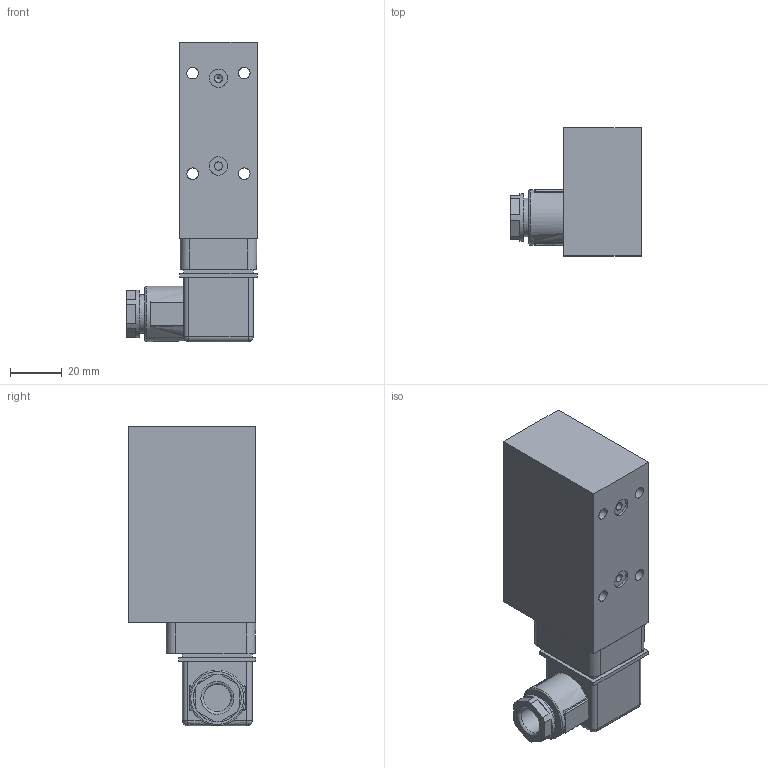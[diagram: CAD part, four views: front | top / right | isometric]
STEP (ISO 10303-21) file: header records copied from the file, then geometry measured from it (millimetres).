
FILE_DESCRIPTION((''),'2;1');
FILE_NAME('U:\Users\a.heinl\DG023.stp','2013-05-14T15:05:20',('User'), ('SDRC'),'I-DEAS Master Series 9','UNIX','Yes');
FILE_SCHEMA(('AUTOMOTIVE_DESIGN { 1 0 10303 214 1 1 1 1 }'));
Length unit declared in the file: millimetre
Products named in the file (1): 11750901(267724)
Bounding box: 50.5 x 49.6 x 116.15 mm (x, y, z)
Volume: 146122 mm3; surface area: 26791.4 mm2
Topology: 1 solids, 4 shells, 140 faces, 335 edges, 230 vertices
Faces by surface type: bspline 140
Entity records: 4276 total; most frequent: CARTESIAN_POINT 2267, ORIENTED_EDGE 632, EDGE_CURVE 316, VERTEX_POINT 202, EDGE_LOOP 170, FACE_OUTER_BOUND 140, ADVANCED_FACE 140, B_SPLINE_CURVE_WITH_KNOTS 119
